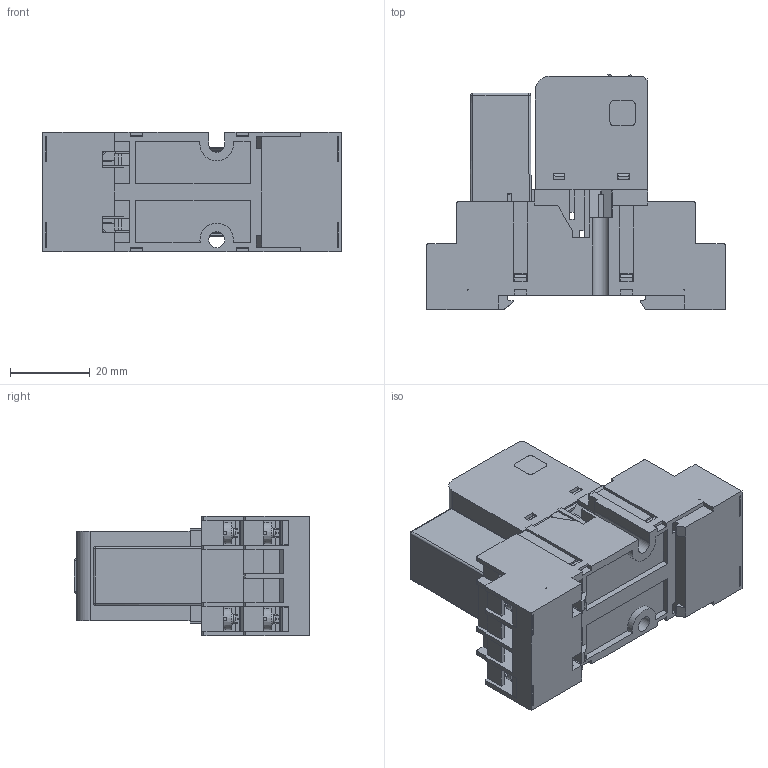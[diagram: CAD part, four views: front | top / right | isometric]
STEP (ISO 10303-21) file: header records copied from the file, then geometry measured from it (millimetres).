
FILE_DESCRIPTION(('STEP AP214'), '1');
FILE_NAME('Ðåëå ìîäóëüíîå ÐÏ30Õ-002-Ì30-ÕÕ (íà ïîêàç)', '', ('UNSPECIFIED'), ('UNSPECIFIED'), 'ASCON STEP Converter 1.6', 'ASCON Math Kernel', '');
FILE_SCHEMA(('AUTOMOTIVE_DESIGN { 1 0 10303 214 3 1 1}'));
Length unit declared in the file: millimetre
Bounding box: 74.9 x 59 x 30 mm (x, y, z)
Volume: 21653.3 mm3; surface area: 38935.9 mm2
Topology: 10 solids, 10 shells, 2847 faces, 8154 edges, 5228 vertices
Faces by surface type: plane 2155, cylinder 435, torus 112, bspline 88, cone 57
Full cylindrical faces by diameter (mm): 0.6 x2, 2.3 x8, 3 x17, 3.54 x8, 4 x1, 4.5 x14
Entity records: 129523 total; most frequent: CARTESIAN_POINT 34159, ORIENTED_EDGE 16118, DIRECTION 13463, EDGE_CURVE 8059, LINE 5987, VECTOR 5987, VERTEX_POINT 5228, AXIS2_PLACEMENT_3D 3738
